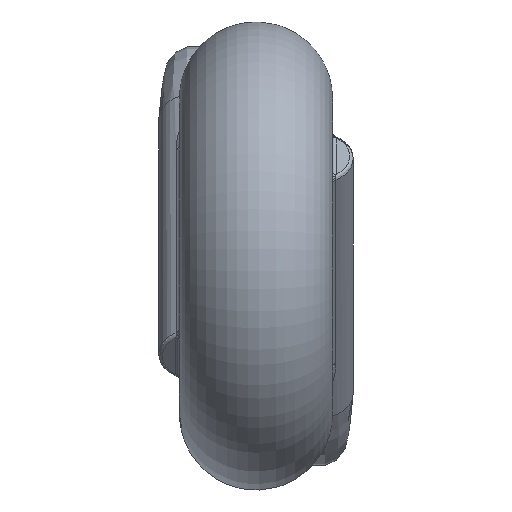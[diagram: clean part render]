
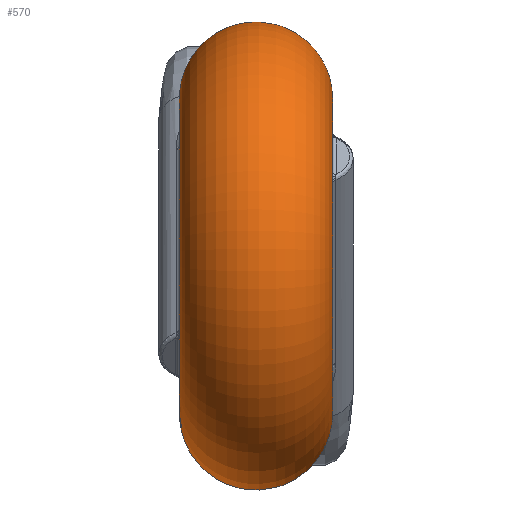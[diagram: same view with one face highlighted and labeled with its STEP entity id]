
A CAD part, left-side view. The second image highlights one B-rep face of the part: STEP entity #570.
In plain terms, the highlighted toroidal (fillet/blend) face has major radius 4.545 mm and minor radius 2.205 mm.
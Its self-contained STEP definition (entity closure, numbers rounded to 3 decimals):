
#20=TOROIDAL_SURFACE('',#632,4.545,2.205);
#81=B_SPLINE_CURVE_WITH_KNOTS('',3,(#1638,#1639,#1640,#1641,#1642,#1643,
#1644,#1645,#1646,#1647,#1648,#1649,#1650,#1651,#1652,#1653),
 .UNSPECIFIED.,.F.,.F.,(4,1,1,1,1,1,1,1,1,1,1,1,1,4),(-0.789,
-0.733,-0.677,-0.564,-0.507,
-0.451,-0.409,-0.338,-0.282,
-0.226,-0.169,-0.113,-0.085,
0.),.UNSPECIFIED.);
#82=B_SPLINE_CURVE_WITH_KNOTS('',3,(#1659,#1660,#1661,#1662,#1663,#1664,
#1665,#1666,#1667,#1668,#1669,#1670,#1671,#1672,#1673,#1674),
 .UNSPECIFIED.,.F.,.F.,(4,1,1,1,1,1,1,1,1,1,1,1,1,4),(-0.789,
-0.733,-0.677,-0.564,-0.507,
-0.451,-0.395,-0.338,-0.282,
-0.226,-0.169,-0.113,-0.056,
0.),.UNSPECIFIED.);
#97=FACE_BOUND('',#171,.T.);
#129=FACE_OUTER_BOUND('',#170,.T.);
#170=EDGE_LOOP('',(#453,#454));
#171=EDGE_LOOP('',(#455,#456));
#215=CIRCLE('',#633,4.545);
#216=CIRCLE('',#634,4.545);
#259=VERTEX_POINT('',#1553);
#260=VERTEX_POINT('',#1636);
#261=VERTEX_POINT('',#1657);
#262=VERTEX_POINT('',#1658);
#330=EDGE_CURVE('',#260,#259,#81,.T.);
#332=EDGE_CURVE('',#261,#262,#82,.T.);
#333=EDGE_CURVE('',#261,#262,#215,.T.);
#334=EDGE_CURVE('',#260,#259,#216,.T.);
#453=ORIENTED_EDGE('',*,*,#332,.T.);
#454=ORIENTED_EDGE('',*,*,#333,.F.);
#455=ORIENTED_EDGE('',*,*,#330,.T.);
#456=ORIENTED_EDGE('',*,*,#334,.F.);
#570=ADVANCED_FACE('',(#129,#97),#20,.T.);
#632=AXIS2_PLACEMENT_3D('',#1656,#759,#760);
#633=AXIS2_PLACEMENT_3D('',#1675,#761,#762);
#634=AXIS2_PLACEMENT_3D('',#1676,#763,#764);
#759=DIRECTION('center_axis',(0.,1.,0.));
#760=DIRECTION('ref_axis',(1.,0.,0.));
#761=DIRECTION('center_axis',(0.,-1.,0.));
#762=DIRECTION('ref_axis',(-1.,0.,0.));
#763=DIRECTION('center_axis',(0.,1.,0.));
#764=DIRECTION('ref_axis',(-1.,0.,0.));
#1553=CARTESIAN_POINT('',(3.231,3.6,3.197));
#1636=CARTESIAN_POINT('',(4.334,3.6,1.368));
#1638=CARTESIAN_POINT('Ctrl Pts',(4.334,3.6,1.368));
#1639=CARTESIAN_POINT('Ctrl Pts',(4.454,3.6,1.497));
#1640=CARTESIAN_POINT('Ctrl Pts',(4.708,3.567,1.738));
#1641=CARTESIAN_POINT('Ctrl Pts',(5.237,3.354,2.136));
#1642=CARTESIAN_POINT('Ctrl Pts',(5.68,2.916,2.488));
#1643=CARTESIAN_POINT('Ctrl Pts',(5.814,2.4,2.962));
#1644=CARTESIAN_POINT('Ctrl Pts',(5.734,2.1,3.354));
#1645=CARTESIAN_POINT('Ctrl Pts',(5.5,1.915,3.819));
#1646=CARTESIAN_POINT('Ctrl Pts',(5.147,1.958,4.272));
#1647=CARTESIAN_POINT('Ctrl Pts',(4.736,2.295,4.562));
#1648=CARTESIAN_POINT('Ctrl Pts',(4.399,2.716,4.559));
#1649=CARTESIAN_POINT('Ctrl Pts',(4.118,3.097,4.334));
#1650=CARTESIAN_POINT('Ctrl Pts',(3.899,3.335,4.043));
#1651=CARTESIAN_POINT('Ctrl Pts',(3.625,3.539,3.653));
#1652=CARTESIAN_POINT('Ctrl Pts',(3.414,3.6,3.379));
#1653=CARTESIAN_POINT('Ctrl Pts',(3.231,3.6,3.197));
#1656=CARTESIAN_POINT('Origin',(0.,1.395,0.));
#1657=CARTESIAN_POINT('',(4.334,-0.81,-1.368));
#1658=CARTESIAN_POINT('',(3.231,-0.81,-3.197));
#1659=CARTESIAN_POINT('Ctrl Pts',(4.334,-0.81,-1.368));
#1660=CARTESIAN_POINT('Ctrl Pts',(4.454,-0.81,-1.497));
#1661=CARTESIAN_POINT('Ctrl Pts',(4.708,-0.777,-1.738));
#1662=CARTESIAN_POINT('Ctrl Pts',(5.237,-0.564,-2.136));
#1663=CARTESIAN_POINT('Ctrl Pts',(5.68,-0.126,-2.488));
#1664=CARTESIAN_POINT('Ctrl Pts',(5.814,0.39,-2.962));
#1665=CARTESIAN_POINT('Ctrl Pts',(5.727,0.718,-3.39));
#1666=CARTESIAN_POINT('Ctrl Pts',(5.471,0.88,-3.861));
#1667=CARTESIAN_POINT('Ctrl Pts',(5.115,0.805,-4.294));
#1668=CARTESIAN_POINT('Ctrl Pts',(4.736,0.496,-4.562));
#1669=CARTESIAN_POINT('Ctrl Pts',(4.4,0.074,-4.559));
#1670=CARTESIAN_POINT('Ctrl Pts',(4.118,-0.307,-4.334));
#1671=CARTESIAN_POINT('Ctrl Pts',(3.856,-0.593,-3.984));
#1672=CARTESIAN_POINT('Ctrl Pts',(3.576,-0.769,-3.582));
#1673=CARTESIAN_POINT('Ctrl Pts',(3.353,-0.81,-3.318));
#1674=CARTESIAN_POINT('Ctrl Pts',(3.231,-0.81,-3.197));
#1675=CARTESIAN_POINT('Origin',(0.,-0.81,0.));
#1676=CARTESIAN_POINT('Origin',(0.,3.6,0.));
